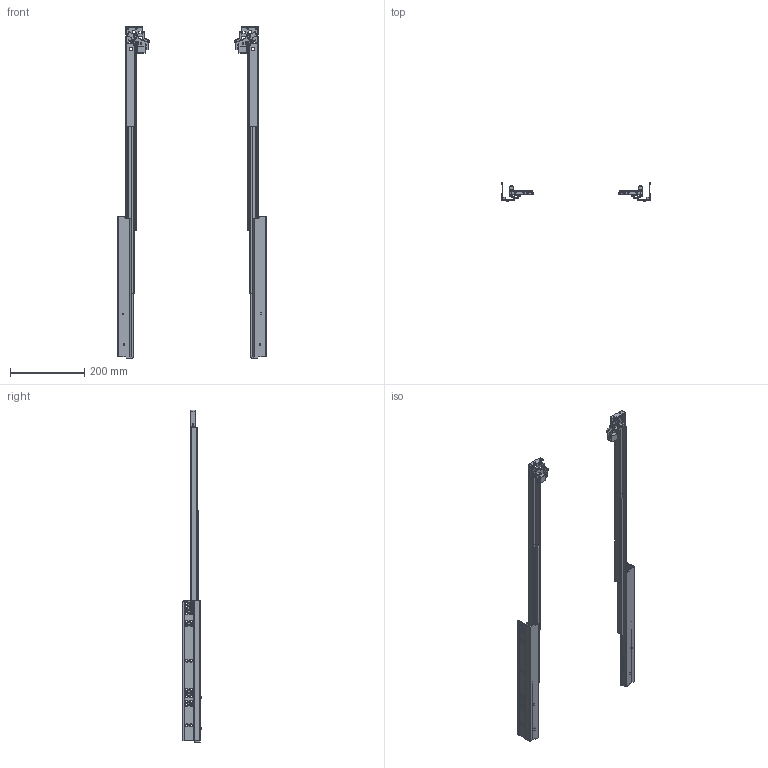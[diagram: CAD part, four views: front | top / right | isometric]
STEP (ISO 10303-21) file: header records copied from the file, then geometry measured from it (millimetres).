
FILE_DESCRIPTION(/* description */ (''),/* implementation_level */ '2;1');
FILE_NAME(/* name */ 'D:\$Workingspace\Designs\Katalog\Cadsoft\GTV Prowadnice\Prowadnice GTV_bryły 3D\PB-0FPO-550_wysunieta.stp',/* time_stamp */ '2016-11-21T14:05:05+01:00',/* author */ ('tomaszw'),/* organization */ (''),/* preprocessor_version */ 'ST-DEVELOPER v16.1',/* originating_system */ 'Autodesk Inventor 2016',/* authorisation */ '');
FILE_SCHEMA (('AUTOMOTIVE_DESIGN { 1 0 10303 214 3 1 1 }'));
Length unit declared in the file: millimetre
Products named in the file (9): PB-0FPO-CL-550; PB-0FPO-CR-550; PB-0FPO-DL-550; PB-0FPO-DR-550; PB-0FPO-DWL-550; PB-0FPO-DWR-550; PB-0FPO-SL; PB-0FPO-SR; PB-0FPO
Assembly tree (8 placements, depth 2):
  PB-0FPO
    PB-0FPO-CL-550
    PB-0FPO-CR-550
    PB-0FPO-DL-550
    PB-0FPO-DR-550
    PB-0FPO-DWL-550
    PB-0FPO-DWR-550
    PB-0FPO-SL
    PB-0FPO-SR
Bounding box: 400 x 48.8 x 894 mm (x, y, z)
Volume: 337955.2 mm3; surface area: 420658.1 mm2
Topology: 16 solids, 16 shells, 1892 faces, 4380 edges, 2526 vertices
Faces by surface type: cylinder 796, plane 444, torus 366, sphere 198, cone 52, bspline 36
Full cylindrical faces by diameter (mm): 3 x2, 4 x6, 4.5 x6, 5 x2, 6 x52, 7.889 x2
Entity records: 56601 total; most frequent: CARTESIAN_POINT 11187, DIRECTION 10022, ORIENTED_EDGE 8332, EDGE_CURVE 4166, AXIS2_PLACEMENT_3D 4051, VERTEX_POINT 2468, EDGE_LOOP 2206, CIRCLE 2166
